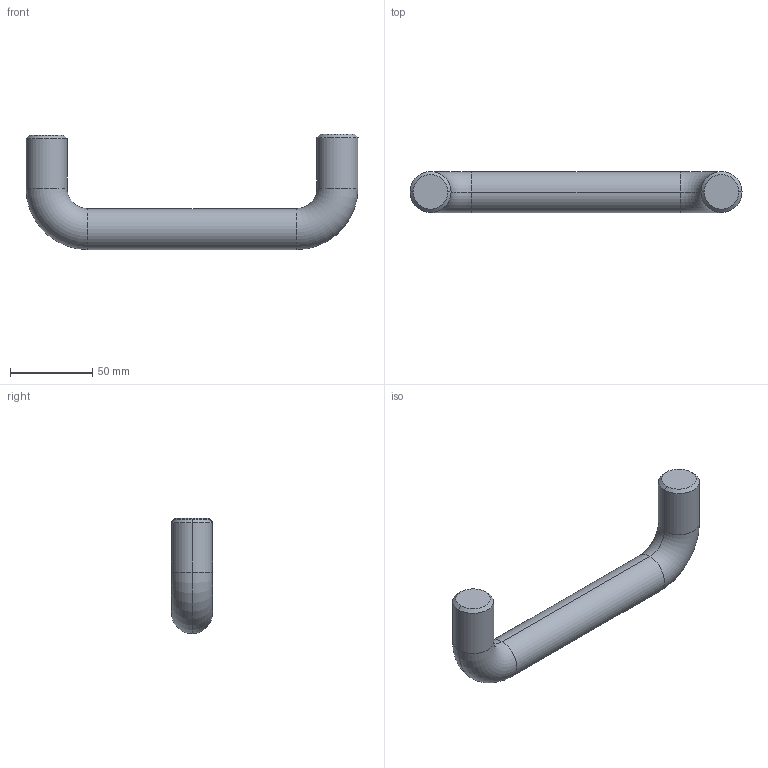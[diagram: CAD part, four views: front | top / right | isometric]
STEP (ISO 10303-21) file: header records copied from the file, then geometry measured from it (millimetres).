
FILE_DESCRIPTION (( 'STEP AP203' ), '1' );
FILE_NAME ('YYDK-500-0033-7 支架把手（500T）.step', '2026-03-04T03:13:09', ( 'Windows 用户' ), ( '' ), 'SwSTEP 2.0', 'SolidWorks 2020', '' );
FILE_SCHEMA (( 'CONFIG_CONTROL_DESIGN' ));
Length unit declared in the file: millimetre
Products named in the file (1): YYDK-500-0033-7 支架把手（500T）
Bounding box: 202.21 x 25 x 70.2 mm (x, y, z)
Volume: 132474 mm3; surface area: 22030.7 mm2
Topology: 1 solids, 1 shells, 16 faces, 30 edges, 16 vertices
Faces by surface type: cylinder 6, torus 4, cone 4, plane 2
Entity records: 475 total; most frequent: DIRECTION 84, CARTESIAN_POINT 63, ORIENTED_EDGE 60, AXIS2_PLACEMENT_3D 37, EDGE_CURVE 30, CIRCLE 20, ADVANCED_FACE 16, VERTEX_POINT 16
